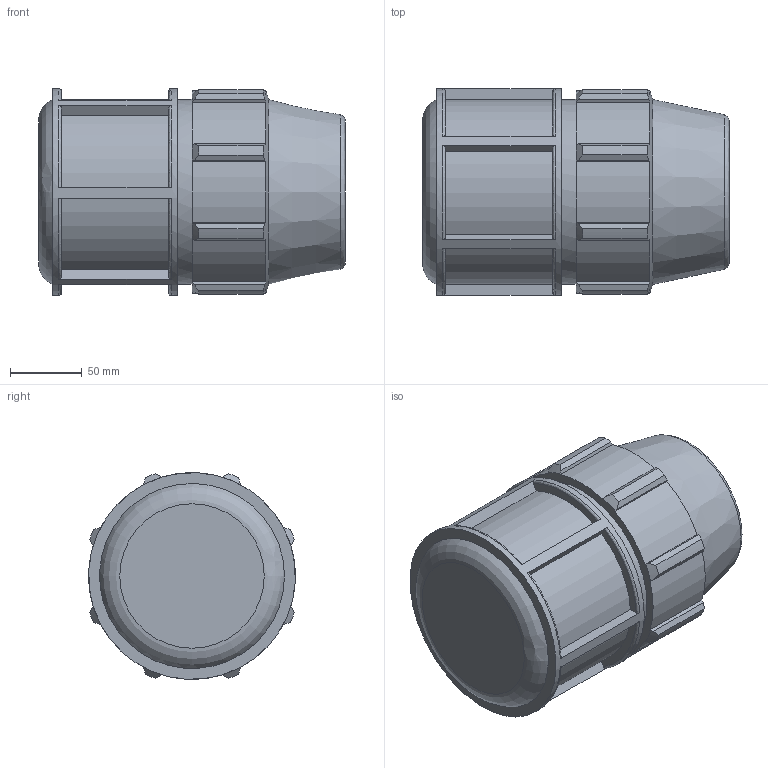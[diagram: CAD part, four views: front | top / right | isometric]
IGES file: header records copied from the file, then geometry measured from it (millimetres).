
Global section: file name: 0712M0300.ipt; native system: Autodesk Inventor 2019; preprocessor: unknown; author: Кирилл,,11,0; organization: 20170224.180708; date: 20210826.124729; units: inch
Bounding box: 213.87 x 144.15 x 144.29 mm (x, y, z)
Volume: 1641328.1 mm3; surface area: 190474.7 mm2
Topology: 1 solids, 1 shells, 115 faces, 313 edges, 210 vertices
Faces by surface type: plane 63, cylinder 24, revolution 18, cone 10
Full cylindrical faces by diameter (mm): 129.108 x1, 144.297 x1
